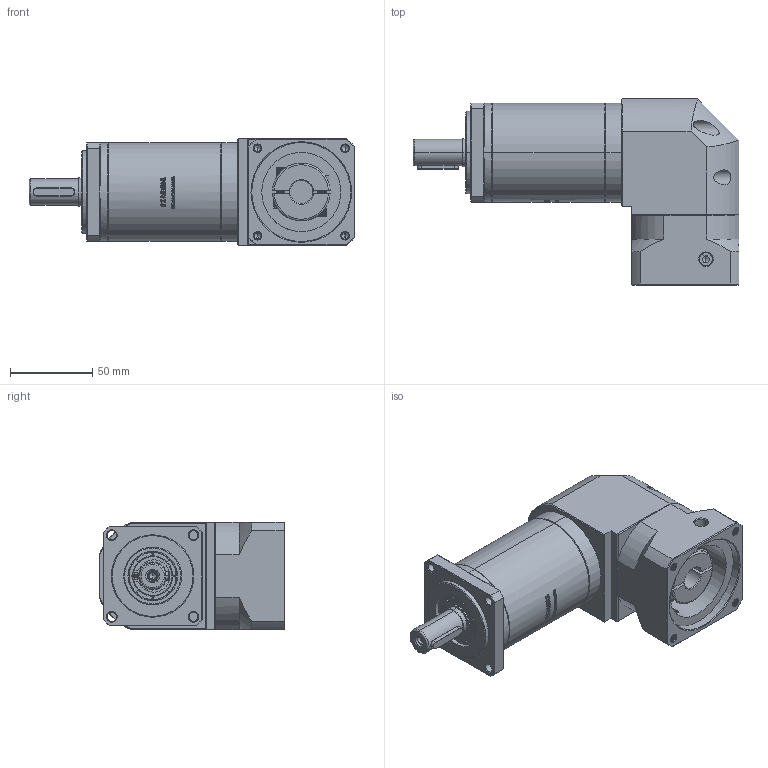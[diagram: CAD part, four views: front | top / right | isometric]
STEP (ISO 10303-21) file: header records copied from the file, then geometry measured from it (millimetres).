
FILE_DESCRIPTION (( 'STEP AP214' ), '1' );
FILE_NAME ('ZFR60-D16-L3-14-60-75-M5.STEP', '2022-04-20T09:07:51', ( '' ), ( 'Microsoft' ), 'SwSTEP 2.0', 'SolidWorks 2016', '' );
FILE_SCHEMA (( 'AUTOMOTIVE_DESIGN' ));
Length unit declared in the file: millimetre
Products named in the file (1): ZFR60-D16-L3-14-60-75-M5
Bounding box: 197.5 x 112.7 x 65 mm (x, y, z)
Volume: 651900 mm3; surface area: 86863.5 mm2
Topology: 5 solids, 6 shells, 2692 faces, 7346 edges, 4791 vertices
Faces by surface type: plane 1397, bspline 579, cylinder 402, cone 290, torus 24
Entity records: 149222 total; most frequent: CARTESIAN_POINT 57067, ORIENTED_EDGE 14648, DIRECTION 10545, EDGE_CURVE 7324, VERTEX_POINT 4791, LINE 4399, VECTOR 4399, AXIS2_PLACEMENT_3D 3073
